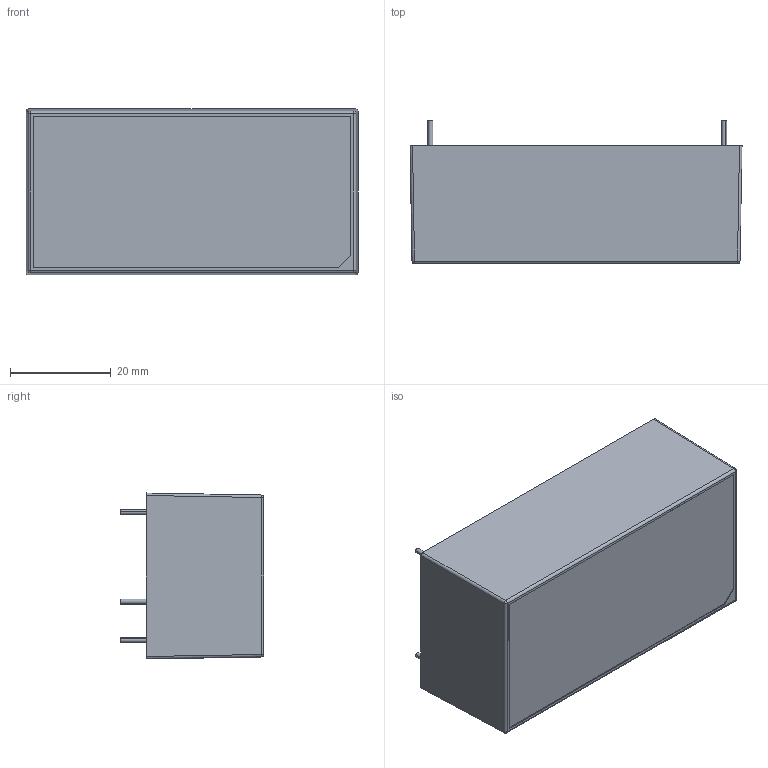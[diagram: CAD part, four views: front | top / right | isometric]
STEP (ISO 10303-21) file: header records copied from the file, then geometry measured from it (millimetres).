
FILE_DESCRIPTION (( 'STEP AP214' ), '1' );
FILE_NAME ('VCE20-E¦¨«~¹Ï(03)-1070809.STEP', '2019-07-02T02:49:14', ( '' ), ( '' ), 'SwSTEP 2.0', 'SolidWorks 2017', '' );
FILE_SCHEMA (( 'AUTOMOTIVE_DESIGN' ));
Length unit declared in the file: millimetre
Products named in the file (21): VCE20 BASE G521F120025 (M-G090-00-M)-1080125; VCE20灌膠口; VCE20變壓器B-1070627; VCE20 L2-107; VCE20-P成品圖(01)-1070730; VCE20 CY1-1070626; 電晶體 105,04,14; VCE20變壓器-1070801; VCE20 13.2x26mm電容; Electrolitic Capacitor Radial 8x16; 陶瓷電容d8; VCE20 PCB-1070730; ｶ鷄IN G7200030020-1070503; Electrolitic Capacitor Radial (5X11.8); VCE20 CASE G511C320009 (M-G089-00-M)-1080125; VCE20 D4; VCE20-E成品圖(03)-1070809
Assembly tree (22 placements, depth 3):
  VCE20-E成品圖(03)-1070809
    VCE20 CASE G511C320009 (M-G089-00-M)-1080125
    VCE20 BASE G521F120025 (M-G090-00-M)-1080125
      VCE20 BASE G521F120025 (M-G090-00-M)-1080125
    ｶ鷄IN G7200030020-1070503
    ｶ鷄IN G7200030020-1070503
    ｶ鷄IN G7200030020-1070503
    ｶ鷄IN G7200030020-1070503
    VCE20-P成品圖(01)-1070730
      VCE20 PCB-1070730
      陶瓷電容d8
      Electrolitic Capacitor Radial 8x16  x2
      VCE20 13.2x26mm電容
      Electrolitic Capacitor Radial (5X11.8)
      VCE20 D4
      VCE20 CY1-1070626  x2
      VCE20 L2-107
      電晶體 105,04,14
      VCE20變壓器B-1070627
      VCE20變壓器-1070801
    VCE20灌膠口
Bounding box: 66.04 x 28.5 x 33.02 mm (x, y, z)
Volume: 24440.5 mm3; surface area: 29857.2 mm2
Topology: 24 solids, 24 shells, 831 faces, 2069 edges, 1315 vertices
Faces by surface type: plane 456, cylinder 237, torus 76, bspline 42, cone 12, sphere 8
Entity records: 27560 total; most frequent: CARTESIAN_POINT 5747, DIRECTION 4011, ORIENTED_EDGE 3860, EDGE_CURVE 1930, AXIS2_PLACEMENT_3D 1379, LINE 1253, VECTOR 1253, VERTEX_POINT 1237
